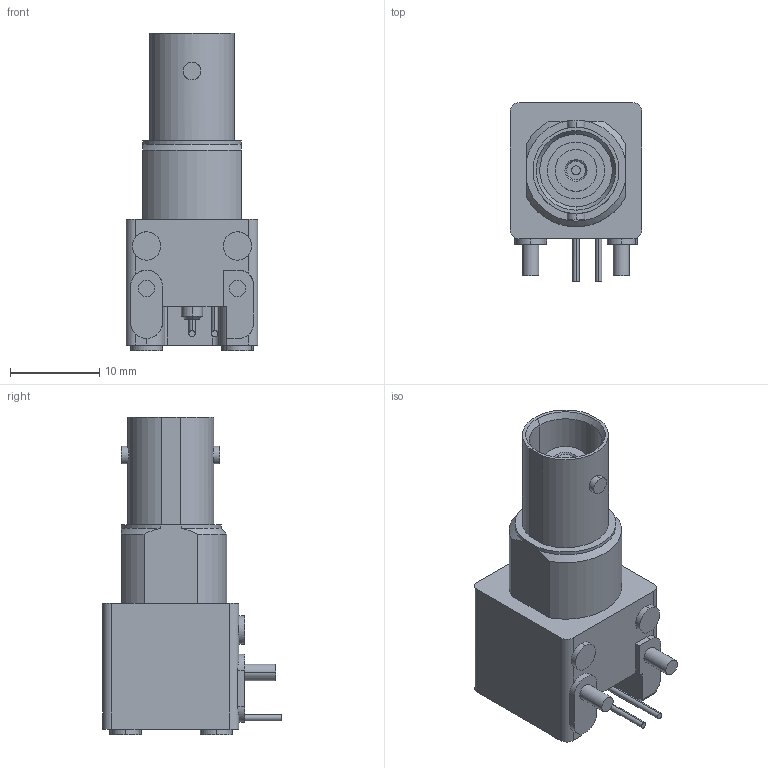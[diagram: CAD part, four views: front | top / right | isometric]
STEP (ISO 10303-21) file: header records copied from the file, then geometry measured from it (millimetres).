
FILE_DESCRIPTION((''),'2;1');
FILE_NAME('C-5227661-01-3','2007-09-01T',('workeradm'),('Tyco Electronics Corporation'),'PRO/ENGINEER BY PARAMETRIC TECHNOLOGY CORPORATION, 2005450','PRO/ENGINEER BY PARAMETRIC TECHNOLOGY CORPORATION, 2005450','');
FILE_SCHEMA(('CONFIG_CONTROL_DESIGN', 'GEOMETRIC_VALIDATION_PROPERTIES_MIM'));
Length unit declared in the file: millimetre
Products named in the file (1): C-5227661-01-3
Bounding box: 14.76 x 19.99 x 35.56 mm (x, y, z)
Volume: 4212.6 mm3; surface area: 2591.1 mm2
Topology: 1 solids, 1 shells, 124 faces, 307 edges, 201 vertices
Faces by surface type: cylinder 64, plane 51, cone 9
Entity records: 3978 total; most frequent: CARTESIAN_POINT 816, DIRECTION 659, ORIENTED_EDGE 614, EDGE_CURVE 307, AXIS2_PLACEMENT_3D 249, VERTEX_POINT 201, VECTOR 161, LINE 161
